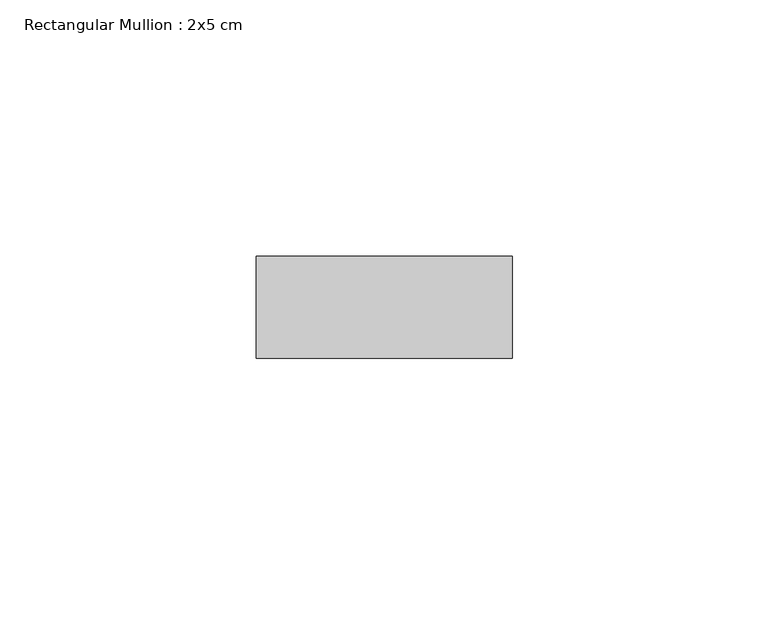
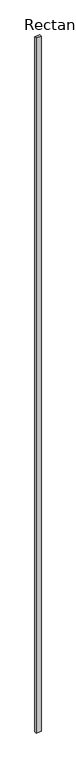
"""IFC4 building model written with IfcOpenShell, lengths in millimetres: member geometry, Rectangular Mullion : 2x5 cm."""

from ifc_helpers import new_model, si_unit, frame, origin, place, context, project, spatial, polyline, outline, extrude, source, transform, mapped, element, save


def rectangular_mullion_2x5_cm_713f8c3f(model_context):
    return source(origin(), model_context, "Body", "SweptSolid", [
        extrude(outline(polyline([(50.0, 20.0), (50.0, 0.0), (0.0, 0.0), (0.0, 20.0), (50.0, 20.0)])), frame((0.0, 0.0, -7357.9321513), z_axis=(0.0, 0.0, 1.0), x_axis=(1.0, 0.0, 0.0)), (0.0, 0.0, 1.0), 7357.9321513),
    ])


if __name__ == "__main__":
    model = new_model("IFC4")
    model_context = context("Model", 3, world=origin())
    ifc_project = project(units=[si_unit("LENGTHUNIT", "METRE", prefix="MILLI")], contexts=[model_context])
    site = spatial("IfcSite", under=ifc_project)
    building = spatial("IfcBuilding", under=site)
    placement = place(None, origin())
    rectangular_mullion_2x5_cm_shape = rectangular_mullion_2x5_cm_713f8c3f(model_context)
    element("IfcMember", 1, ObjectType="Rectangular Mullion : 2x5 cm", at=placement, inside=building, context=model_context, shape_type="MappedRepresentation", body=[
        mapped(rectangular_mullion_2x5_cm_shape, transform((0.0, 0.0, 0.0), x_axis=(1.0, 0.0, 0.0), y_axis=(0.0, 1.0, 0.0), z_axis=(0.0, 0.0, 1.0))),
    ])
    save(model, "model.ifc")
